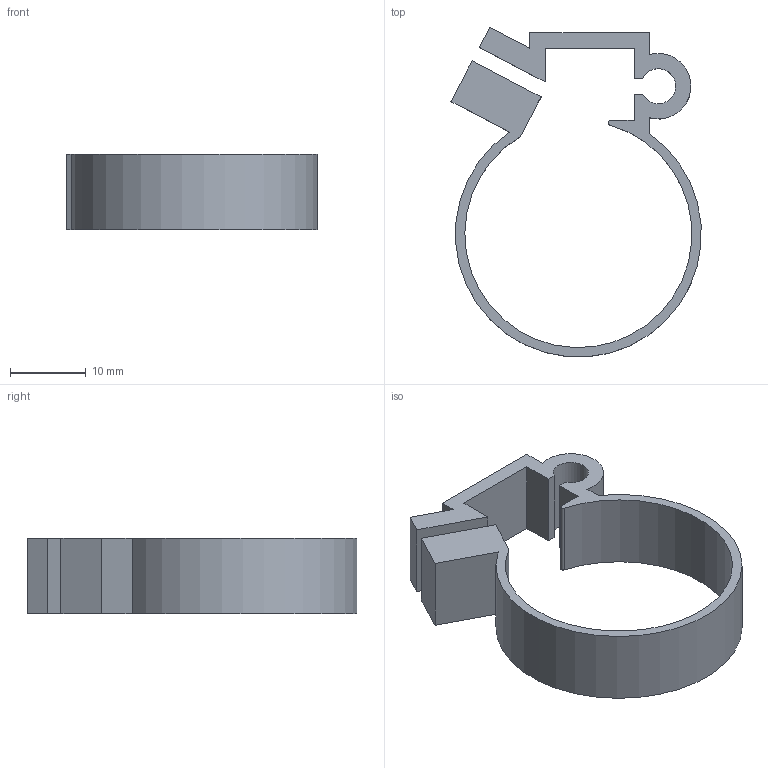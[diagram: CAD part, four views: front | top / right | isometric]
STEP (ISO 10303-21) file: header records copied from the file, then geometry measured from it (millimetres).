
FILE_DESCRIPTION( ( 'Unknown' ), '1' );
FILE_NAME( 'Z:/bereich/BECH/Services/me_CAD/Solid Edge/Models/Dokumentationen/Magnetoresitiv/Zuberhörteile/Vereinfachte Modelle/Neutralformate/xf-30.stp', 'Unknown', ( 'Unknown' ), ( 'Unknown' ), 'XStep 1.0', 'Unknown', ' ' );
FILE_SCHEMA( ( 'CONFIG_CONTROL_DESIGN' ) );
Length unit declared in the file: millimetre
Products named in the file (1): 1
Bounding box: 33.03 x 43.53 x 10 mm (x, y, z)
Volume: 2698.9 mm3; surface area: 3490.9 mm2
Topology: 1 solids, 1 shells, 25 faces, 69 edges, 46 vertices
Faces by surface type: plane 20, cylinder 5
Entity records: 837 total; most frequent: CARTESIAN_POINT 141, ORIENTED_EDGE 138, DIRECTION 131, EDGE_CURVE 69, LINE 59, VECTOR 59, VERTEX_POINT 46, AXIS2_PLACEMENT_3D 36
